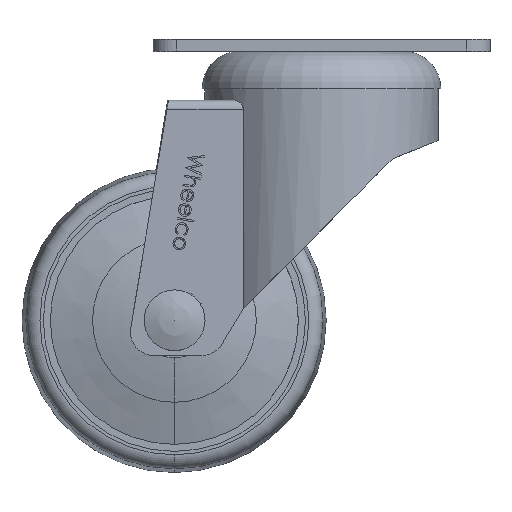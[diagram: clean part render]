
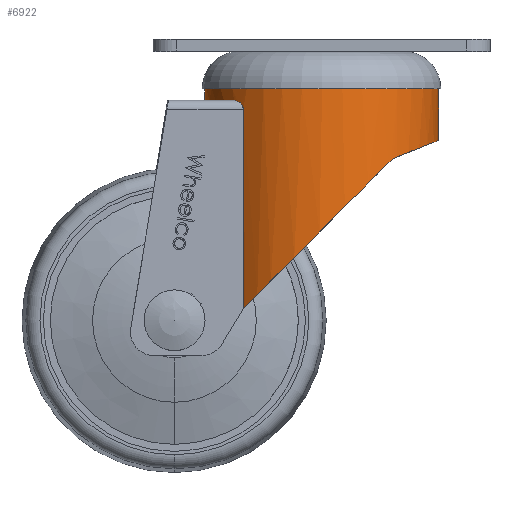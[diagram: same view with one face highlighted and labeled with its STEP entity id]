
A CAD part, top view. The second image highlights one B-rep face of the part: STEP entity #6922.
In plain terms, the highlighted cylindrical face has radius 25 mm (diameter 50 mm), a partial arc.
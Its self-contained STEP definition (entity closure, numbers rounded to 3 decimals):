
#121 = CARTESIAN_POINT ( 'NONE',  ( -16.968, 13.541, 18.362 ) ) ;
#211 = CARTESIAN_POINT ( 'NONE',  ( -18.5, 70., 16.815 ) ) ;
#346 = DIRECTION ( 'NONE',  ( 0., 0., -1. ) ) ;
#474 = AXIS2_PLACEMENT_3D ( 'NONE', #9160, #12547, #4719 ) ;
#514 = ORIENTED_EDGE ( 'NONE', *, *, #5125, .T. ) ;
#744 = DIRECTION ( 'NONE',  ( 0., -1., 0. ) ) ;
#1181 = B_SPLINE_CURVE_WITH_KNOTS ( 'NONE', 3,
 ( #5633, #4913, #7053, #13748, #6191, #13819 ),
 .UNSPECIFIED., .F., .F.,
 ( 4, 2, 4 ),
 ( 0., 0.001, 0.002 ),
 .UNSPECIFIED. ) ;
#1206 = CARTESIAN_POINT ( 'NONE',  ( -17.62, 13.824, 17.738 ) ) ;
#1210 = CARTESIAN_POINT ( 'NONE',  ( -18.5, 58.06, 16.815 ) ) ;
#1281 = CARTESIAN_POINT ( 'NONE',  ( -18.5, 15.5, 16.815 ) ) ;
#1342 = CARTESIAN_POINT ( 'NONE',  ( -19.243, 25.616, -15.96 ) ) ;
#1363 = CARTESIAN_POINT ( 'NONE',  ( 0., 11., 25. ) ) ;
#1368 = ORIENTED_EDGE ( 'NONE', *, *, #9828, .T. ) ;
#1497 = VECTOR ( 'NONE', #8728, 1000. ) ;
#2055 = CARTESIAN_POINT ( 'NONE',  ( -27.323, 36.566, -4.495 ) ) ;
#2082 = CIRCLE ( 'NONE', #12187, 25. ) ;
#2362 = CARTESIAN_POINT ( 'NONE',  ( -17.992, 14.161, 17.359 ) ) ;
#2373 = CARTESIAN_POINT ( 'NONE',  ( 0., 11., 0. ) ) ;
#2386 = LINE ( 'NONE', #211, #7360 ) ;
#2591 = VERTEX_POINT ( 'NONE', #3174 ) ;
#2634 = CARTESIAN_POINT ( 'NONE',  ( -7.565, 22., -25. ) ) ;
#2923 = EDGE_CURVE ( 'NONE', #7601, #5076, #12453, .T. ) ;
#3174 = CARTESIAN_POINT ( 'NONE',  ( 0., 13.5, 25. ) ) ;
#3338 = CARTESIAN_POINT ( 'NONE',  ( 0., 11., -25. ) ) ;
#3368 = CARTESIAN_POINT ( 'NONE',  ( -17.901, 14.068, 17.452 ) ) ;
#3513 = CARTESIAN_POINT ( 'NONE',  ( -18.156, 14.37, 17.187 ) ) ;
#3574 = CARTESIAN_POINT ( 'NONE',  ( 0., 13.5, 0. ) ) ;
#4110 = ORIENTED_EDGE ( 'NONE', *, *, #2923, .F. ) ;
#4224 = EDGE_CURVE ( 'NONE', #8882, #11742, #11726, .T. ) ;
#4354 = CARTESIAN_POINT ( 'NONE',  ( 0., 70., -25. ) ) ;
#4719 = DIRECTION ( 'NONE',  ( 0., 0., -1. ) ) ;
#4748 = ORIENTED_EDGE ( 'NONE', *, *, #13066, .F. ) ;
#4912 = VERTEX_POINT ( 'NONE', #13039 ) ;
#4913 = CARTESIAN_POINT ( 'NONE',  ( -20.347, 26.473, -14.53 ) ) ;
#5076 = VERTEX_POINT ( 'NONE', #3338 ) ;
#5084 = VERTEX_POINT ( 'NONE', #5701 ) ;
#5125 = EDGE_CURVE ( 'NONE', #8882, #11605, #1181, .T. ) ;
#5633 = CARTESIAN_POINT ( 'NONE',  ( -20.526, 26.733, -14.271 ) ) ;
#5669 = CARTESIAN_POINT ( 'NONE',  ( -18.23, 14.485, 17.108 ) ) ;
#5701 = CARTESIAN_POINT ( 'NONE',  ( -18.5, 15.5, 16.815 ) ) ;
#5917 = EDGE_CURVE ( 'NONE', #7936, #11742, #14215, .T. ) ;
#5952 = CARTESIAN_POINT ( 'NONE',  ( -18.622, 57.885, 16.681 ) ) ;
#5997 = FACE_OUTER_BOUND ( 'NONE', #11012, .T. ) ;
#6040 = EDGE_CURVE ( 'NONE', #4912, #2591, #2082, .T. ) ;
#6116 = B_SPLINE_CURVE_WITH_KNOTS ( 'NONE', 3,
 ( #11275, #12426, #121, #11208, #1206, #3368, #2362, #3513, #5669, #10122, #8829, #7743, #12145, #1281 ),
 .UNSPECIFIED., .F., .F.,
 ( 4, 2, 2, 2, 2, 2, 4 ),
 ( 0., 0.001, 0.002, 0.002, 0.003, 0.003, 0.004 ),
 .UNSPECIFIED. ) ;
#6191 = CARTESIAN_POINT ( 'NONE',  ( -19.491, 25.736, -15.661 ) ) ;
#6209 = CARTESIAN_POINT ( 'NONE',  ( -19.243, 25.616, -15.96 ) ) ;
#6249 = AXIS2_PLACEMENT_3D ( 'NONE', #2373, #10206, #346 ) ;
#6340 = EDGE_CURVE ( 'NONE', #7936, #5084, #2386, .T. ) ;
#6385 = ORIENTED_EDGE ( 'NONE', *, *, #6040, .F. ) ;
#6922 = ADVANCED_FACE ( 'NONE', ( #5997 ), #12407, .T. ) ;
#7053 = CARTESIAN_POINT ( 'NONE',  ( -20.15, 26.255, -14.803 ) ) ;
#7170 = VECTOR ( 'NONE', #744, 1000. ) ;
#7222 = DIRECTION ( 'NONE',  ( -1., 0., 0. ) ) ;
#7360 = VECTOR ( 'NONE', #9422, 1000. ) ;
#7448 = CARTESIAN_POINT ( 'NONE',  ( -20.526, 26.733, -14.271 ) ) ;
#7601 = VERTEX_POINT ( 'NONE', #1363 ) ;
#7656 = CARTESIAN_POINT ( 'NONE',  ( -26.685, 48.524, 7.394 ) ) ;
#7743 = CARTESIAN_POINT ( 'NONE',  ( -18.48, 15.181, 16.837 ) ) ;
#7929 = CARTESIAN_POINT ( 'NONE',  ( -18.881, 57.569, 16.386 ) ) ;
#7936 = VERTEX_POINT ( 'NONE', #1210 ) ;
#7946 = DIRECTION ( 'NONE',  ( 0., 1., 0. ) ) ;
#8244 = CARTESIAN_POINT ( 'NONE',  ( -18.749, 57.721, 16.538 ) ) ;
#8702 = ORIENTED_EDGE ( 'NONE', *, *, #13389, .T. ) ;
#8716 = ORIENTED_EDGE ( 'NONE', *, *, #6340, .F. ) ;
#8728 = DIRECTION ( 'NONE',  ( 0., -1., 0. ) ) ;
#8829 = CARTESIAN_POINT ( 'NONE',  ( -18.409, 14.883, 16.915 ) ) ;
#8882 = VERTEX_POINT ( 'NONE', #9900 ) ;
#9160 = CARTESIAN_POINT ( 'NONE',  ( 0., 70., 0. ) ) ;
#9187 = EDGE_CURVE ( 'NONE', #2591, #7601, #13847, .T. ) ;
#9325 = CARTESIAN_POINT ( 'NONE',  ( 0., 22., -25. ) ) ;
#9422 = DIRECTION ( 'NONE',  ( 0., -1., 0. ) ) ;
#9557 =( BOUNDED_CURVE ( )  B_SPLINE_CURVE ( 3, ( #9325, #2634, #11202, #1342 ),
 .UNSPECIFIED., .F., .F. ) 
 B_SPLINE_CURVE_WITH_KNOTS ( ( 4, 4 ),
 ( 0., 0.878 ),
 .UNSPECIFIED. ) 
 CURVE ( )  GEOMETRIC_REPRESENTATION_ITEM ( )  RATIONAL_B_SPLINE_CURVE ( ( 1., 0.937, 0.937, 1. ) ) 
 REPRESENTATION_ITEM ( '' )  );
#9828 = EDGE_CURVE ( 'NONE', #4912, #5084, #6116, .T. ) ;
#9900 = CARTESIAN_POINT ( 'NONE',  ( -20.526, 26.733, -14.271 ) ) ;
#10122 = CARTESIAN_POINT ( 'NONE',  ( -18.357, 14.743, 16.972 ) ) ;
#10206 = DIRECTION ( 'NONE',  ( 0., -1., 0. ) ) ;
#10353 = ORIENTED_EDGE ( 'NONE', *, *, #9187, .F. ) ;
#10470 = CARTESIAN_POINT ( 'NONE',  ( 0., 70., 25. ) ) ;
#10534 = ORIENTED_EDGE ( 'NONE', *, *, #4224, .F. ) ;
#10639 = ORIENTED_EDGE ( 'NONE', *, *, #5917, .T. ) ;
#11012 = EDGE_LOOP ( 'NONE', ( #10353, #6385, #1368, #8716, #10639, #10534, #514, #4748, #8702, #4110 ) ) ;
#11202 = CARTESIAN_POINT ( 'NONE',  ( -14.413, 23.287, -21.783 ) ) ;
#11208 = CARTESIAN_POINT ( 'NONE',  ( -17.412, 13.705, 17.942 ) ) ;
#11275 = CARTESIAN_POINT ( 'NONE',  ( -16.5, 13.5, 18.782 ) ) ;
#11425 = CARTESIAN_POINT ( 'NONE',  ( -18.5, 58.06, 16.815 ) ) ;
#11605 = VERTEX_POINT ( 'NONE', #6209 ) ;
#11726 =( BOUNDED_CURVE ( )  B_SPLINE_CURVE ( 3, ( #7448, #2055, #7656, #12060 ),
 .UNSPECIFIED., .F., .F. ) 
 B_SPLINE_CURVE_WITH_KNOTS ( ( 4, 4 ),
 ( 0.963, 2.286 ),
 .UNSPECIFIED. ) 
 CURVE ( )  GEOMETRIC_REPRESENTATION_ITEM ( )  RATIONAL_B_SPLINE_CURVE ( ( 1., 0.86, 0.86, 1. ) ) 
 REPRESENTATION_ITEM ( '' )  );
#11742 = VERTEX_POINT ( 'NONE', #7929 ) ;
#11792 = VERTEX_POINT ( 'NONE', #12752 ) ;
#12060 = CARTESIAN_POINT ( 'NONE',  ( -18.881, 57.569, 16.386 ) ) ;
#12145 = CARTESIAN_POINT ( 'NONE',  ( -18.5, 15.34, 16.815 ) ) ;
#12187 = AXIS2_PLACEMENT_3D ( 'NONE', #3574, #7946, #7222 ) ;
#12407 = CYLINDRICAL_SURFACE ( 'NONE', #474, 25. ) ;
#12426 = CARTESIAN_POINT ( 'NONE',  ( -16.738, 13.5, 18.572 ) ) ;
#12428 = CARTESIAN_POINT ( 'NONE',  ( -18.881, 57.569, 16.386 ) ) ;
#12453 = CIRCLE ( 'NONE', #6249, 25. ) ;
#12547 = DIRECTION ( 'NONE',  ( 0., -1., 0. ) ) ;
#12752 = CARTESIAN_POINT ( 'NONE',  ( 0., 22., -25. ) ) ;
#13039 = CARTESIAN_POINT ( 'NONE',  ( -16.5, 13.5, 18.782 ) ) ;
#13066 = EDGE_CURVE ( 'NONE', #11792, #11605, #9557, .T. ) ;
#13192 = LINE ( 'NONE', #4354, #1497 ) ;
#13389 = EDGE_CURVE ( 'NONE', #11792, #5076, #13192, .T. ) ;
#13748 = CARTESIAN_POINT ( 'NONE',  ( -19.722, 25.886, -15.368 ) ) ;
#13819 = CARTESIAN_POINT ( 'NONE',  ( -19.243, 25.616, -15.96 ) ) ;
#13847 = LINE ( 'NONE', #10470, #7170 ) ;
#14215 = B_SPLINE_CURVE_WITH_KNOTS ( 'NONE', 3,
 ( #11425, #5952, #8244, #12428 ),
 .UNSPECIFIED., .F., .F.,
 ( 4, 4 ),
 ( 0., 0.001 ),
 .UNSPECIFIED. ) ;
